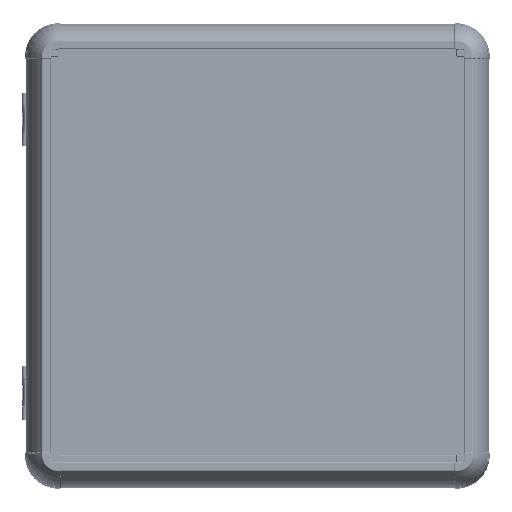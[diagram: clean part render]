
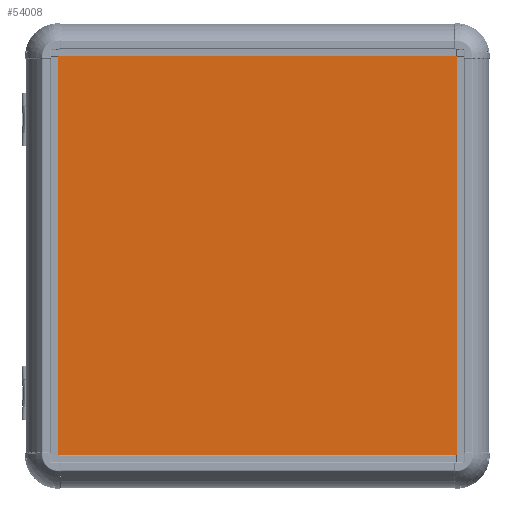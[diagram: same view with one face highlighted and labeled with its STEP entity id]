
A CAD part, top view. The second image highlights one B-rep face of the part: STEP entity #54008.
In plain terms, the highlighted planar face has unit normal (0, 0, 1).
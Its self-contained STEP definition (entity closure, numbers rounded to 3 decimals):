
#3020 = LINE ( 'NONE', #210492, #157886 ) ;
#5491 = LINE ( 'NONE', #74024, #10921 ) ;
#9060 = DIRECTION ( 'NONE',  ( 0., -1., 0. ) ) ;
#9387 = PLANE ( 'NONE',  #36968 ) ;
#10921 = VECTOR ( 'NONE', #47968, 1000. ) ;
#13120 = EDGE_CURVE ( 'NONE', #202958, #125471, #3020, .T. ) ;
#20613 = ORIENTED_EDGE ( 'NONE', *, *, #191659, .T. ) ;
#26997 = CARTESIAN_POINT ( 'NONE',  ( -150., 150., 2. ) ) ;
#32802 = LINE ( 'NONE', #156237, #199462 ) ;
#36746 = CARTESIAN_POINT ( 'NONE',  ( -150., 150., 2. ) ) ;
#36968 = AXIS2_PLACEMENT_3D ( 'NONE', #40799, #110259, #77902 ) ;
#40295 = EDGE_LOOP ( 'NONE', ( #192364, #63169, #149475, #20613 ) ) ;
#40799 = CARTESIAN_POINT ( 'NONE',  ( 0., 0., 2. ) ) ;
#47968 = DIRECTION ( 'NONE',  ( 1., 0., 0. ) ) ;
#54008 = ADVANCED_FACE ( 'NONE', ( #194467 ), #9387, .T. ) ;
#63169 = ORIENTED_EDGE ( 'NONE', *, *, #148453, .T. ) ;
#74024 = CARTESIAN_POINT ( 'NONE',  ( -150., -150., 2. ) ) ;
#77902 = DIRECTION ( 'NONE',  ( 1., 0., 0. ) ) ;
#86374 = EDGE_CURVE ( 'NONE', #117244, #198835, #200784, .T. ) ;
#98867 = CARTESIAN_POINT ( 'NONE',  ( 150., 150., 2. ) ) ;
#104466 = VECTOR ( 'NONE', #9060, 1000. ) ;
#108438 = CARTESIAN_POINT ( 'NONE',  ( 150., -150., 2. ) ) ;
#110259 = DIRECTION ( 'NONE',  ( 0., 0., 1. ) ) ;
#117244 = VERTEX_POINT ( 'NONE', #36746 ) ;
#118045 = DIRECTION ( 'NONE',  ( -1., 0., 0. ) ) ;
#119692 = CARTESIAN_POINT ( 'NONE',  ( -150., -150., 2. ) ) ;
#125471 = VERTEX_POINT ( 'NONE', #98867 ) ;
#148453 = EDGE_CURVE ( 'NONE', #125471, #117244, #32802, .T. ) ;
#149475 = ORIENTED_EDGE ( 'NONE', *, *, #86374, .T. ) ;
#156237 = CARTESIAN_POINT ( 'NONE',  ( -150., 150., 2. ) ) ;
#157886 = VECTOR ( 'NONE', #172363, 1000. ) ;
#172363 = DIRECTION ( 'NONE',  ( 0., 1., 0. ) ) ;
#191659 = EDGE_CURVE ( 'NONE', #198835, #202958, #5491, .T. ) ;
#192364 = ORIENTED_EDGE ( 'NONE', *, *, #13120, .T. ) ;
#194467 = FACE_OUTER_BOUND ( 'NONE', #40295, .T. ) ;
#198835 = VERTEX_POINT ( 'NONE', #119692 ) ;
#199462 = VECTOR ( 'NONE', #118045, 1000. ) ;
#200784 = LINE ( 'NONE', #26997, #104466 ) ;
#202958 = VERTEX_POINT ( 'NONE', #108438 ) ;
#210492 = CARTESIAN_POINT ( 'NONE',  ( 150., 150., 2. ) ) ;
